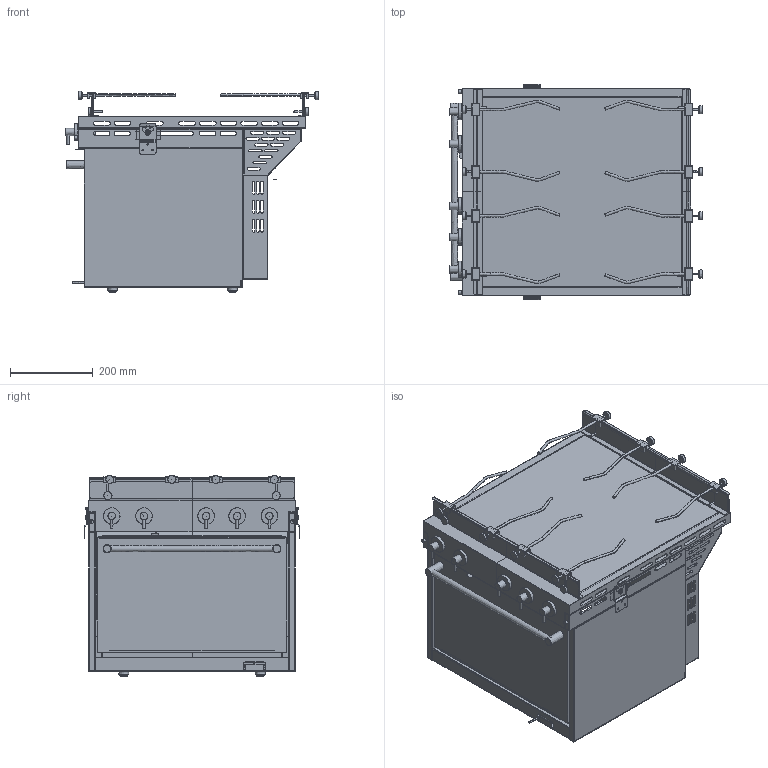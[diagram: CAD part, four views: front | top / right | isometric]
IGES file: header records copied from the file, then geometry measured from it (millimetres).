
Start section:  Alias DesignStudio for Windows version 12.0 IGES version 5.3
Global section: file name: C:\00000LAVORI_IN_CORSO\techimpex\cucina elettrica\cucina elettrica 3 fuochi.iges; native system: Alias DesignStudio for Windows V12.0; preprocessor: 12.0; author: admin; organization: Unknown; date: 20080625.094247; units: millimetre
Bounding box: 610.44 x 521.44 x 486.93 mm (x, y, z)
Surface area: 4299221.5 mm2 (no closed solid volume)
Topology: 0 solids, 0 shells, 1706 faces, 10580 edges, 10127 vertices
Faces by surface type: bspline 1706
